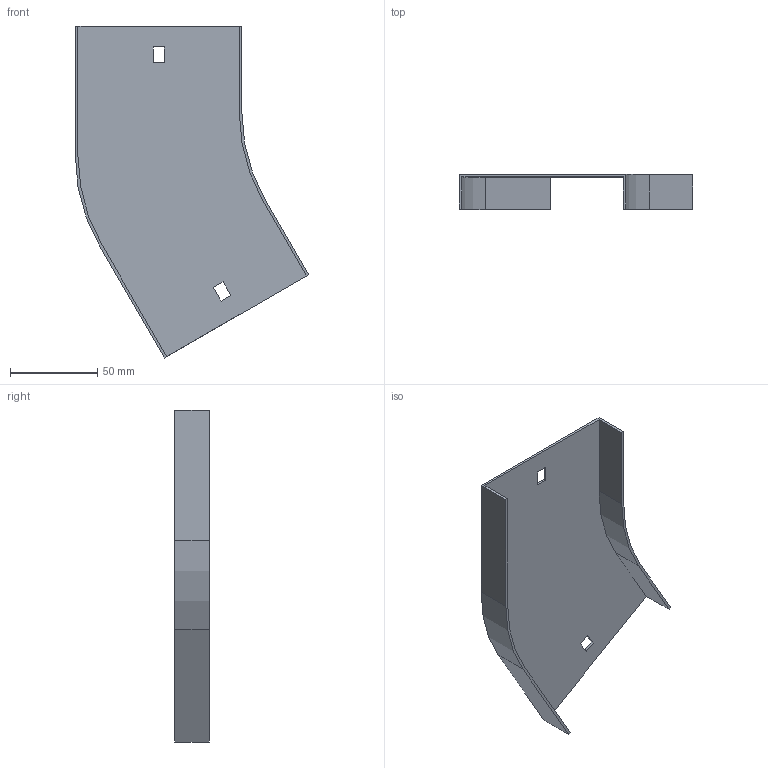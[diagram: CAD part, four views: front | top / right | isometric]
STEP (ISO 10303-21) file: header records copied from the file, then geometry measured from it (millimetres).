
FILE_DESCRIPTION (( 'STEP AP214' ), '1' );
FILE_NAME ('12N1R092.step', '2025-02-21T09:20:04', ( '' ), ( '' ), 'SwSTEP 2.0', 'SolidWorks 2023', '' );
FILE_SCHEMA (( 'AUTOMOTIVE_DESIGN' ));
Length unit declared in the file: millimetre
Products named in the file (1): 12N1R092
Bounding box: 133.7 x 20 x 190.3 mm (x, y, z)
Volume: 35202.8 mm3; surface area: 47959 mm2
Topology: 1 solids, 1 shells, 26 faces, 72 edges, 48 vertices
Faces by surface type: plane 22, cylinder 4
Entity records: 855 total; most frequent: CARTESIAN_POINT 147, ORIENTED_EDGE 144, DIRECTION 134, EDGE_CURVE 72, LINE 64, VECTOR 64, VERTEX_POINT 48, AXIS2_PLACEMENT_3D 35
